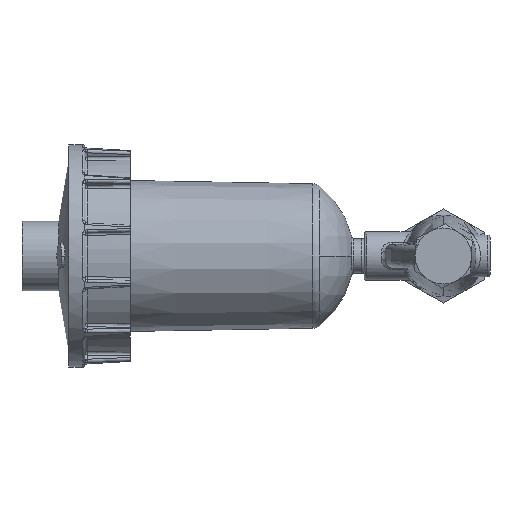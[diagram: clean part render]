
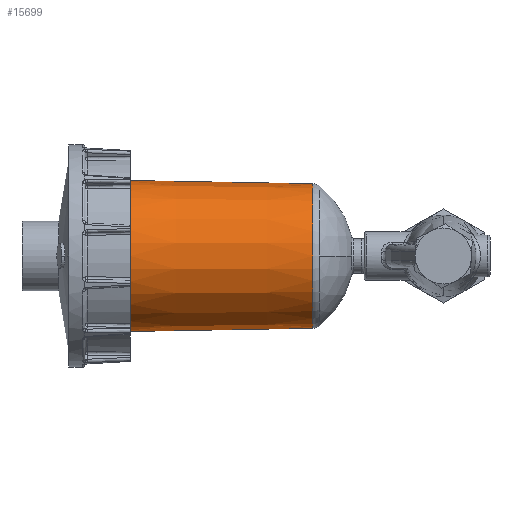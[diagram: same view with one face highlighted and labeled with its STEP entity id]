
A CAD part, left-side view. The second image highlights one B-rep face of the part: STEP entity #15699.
In plain terms, the highlighted conical face has half-angle 1 degrees and reference radius 31 mm.
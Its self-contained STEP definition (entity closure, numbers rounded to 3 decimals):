
#334 = CARTESIAN_POINT ( 'NONE',  ( 0., 1.608, -31.028 ) ) ;
#720 = CARTESIAN_POINT ( 'NONE',  ( 0., 1.608, 0. ) ) ;
#964 = CARTESIAN_POINT ( 'NONE',  ( 0., 80., 0. ) ) ;
#1068 = CARTESIAN_POINT ( 'NONE',  ( 0., 0., -31. ) ) ;
#1090 = CIRCLE ( 'NONE', #10820, 31.028 ) ;
#1191 = VECTOR ( 'NONE', #4869, 1000. ) ;
#1265 = ORIENTED_EDGE ( 'NONE', *, *, #12590, .F. ) ;
#1277 = DIRECTION ( 'NONE',  ( 0., 1., 0.017 ) ) ;
#1524 = CARTESIAN_POINT ( 'NONE',  ( 0., 80., -32.396 ) ) ;
#1963 = DIRECTION ( 'NONE',  ( 0., 0., -1. ) ) ;
#3152 = DIRECTION ( 'NONE',  ( 0., 1., 0. ) ) ;
#3227 = EDGE_CURVE ( 'NONE', #14887, #4198, #8995, .T. ) ;
#3463 = DIRECTION ( 'NONE',  ( 0., 0., 1. ) ) ;
#3530 = ORIENTED_EDGE ( 'NONE', *, *, #3227, .T. ) ;
#3675 = CARTESIAN_POINT ( 'NONE',  ( 0., 0., 0. ) ) ;
#3884 = VECTOR ( 'NONE', #1277, 1000. ) ;
#4151 = EDGE_CURVE ( 'NONE', #7013, #11724, #9756, .T. ) ;
#4198 = VERTEX_POINT ( 'NONE', #15493 ) ;
#4722 = CIRCLE ( 'NONE', #9881, 32.396 ) ;
#4869 = DIRECTION ( 'NONE',  ( 0., 1., -0.017 ) ) ;
#5657 = ORIENTED_EDGE ( 'NONE', *, *, #4151, .F. ) ;
#6773 = EDGE_LOOP ( 'NONE', ( #5657, #9220, #3530, #1265 ) ) ;
#7013 = VERTEX_POINT ( 'NONE', #334 ) ;
#7685 = DIRECTION ( 'NONE',  ( 0., 0., 1. ) ) ;
#8261 = DIRECTION ( 'NONE',  ( 0., 1., 0. ) ) ;
#8995 = LINE ( 'NONE', #13432, #3884 ) ;
#9220 = ORIENTED_EDGE ( 'NONE', *, *, #9567, .T. ) ;
#9567 = EDGE_CURVE ( 'NONE', #7013, #14887, #1090, .T. ) ;
#9756 = LINE ( 'NONE', #1068, #1191 ) ;
#9881 = AXIS2_PLACEMENT_3D ( 'NONE', #964, #8261, #3463 ) ;
#10820 = AXIS2_PLACEMENT_3D ( 'NONE', #720, #3152, #1963 ) ;
#11193 = DIRECTION ( 'NONE',  ( 0., 1., 0. ) ) ;
#11724 = VERTEX_POINT ( 'NONE', #1524 ) ;
#11950 = AXIS2_PLACEMENT_3D ( 'NONE', #3675, #11193, #7685 ) ;
#12081 = FACE_OUTER_BOUND ( 'NONE', #6773, .T. ) ;
#12590 = EDGE_CURVE ( 'NONE', #11724, #4198, #4722, .T. ) ;
#13247 = CONICAL_SURFACE ( 'NONE', #11950, 31., 0.017 ) ;
#13432 = CARTESIAN_POINT ( 'NONE',  ( 0., 0., 31. ) ) ;
#14887 = VERTEX_POINT ( 'NONE', #15497 ) ;
#15493 = CARTESIAN_POINT ( 'NONE',  ( 0., 80., 32.396 ) ) ;
#15497 = CARTESIAN_POINT ( 'NONE',  ( 0., 1.608, 31.028 ) ) ;
#15699 = ADVANCED_FACE ( 'NONE', ( #12081 ), #13247, .T. ) ;
